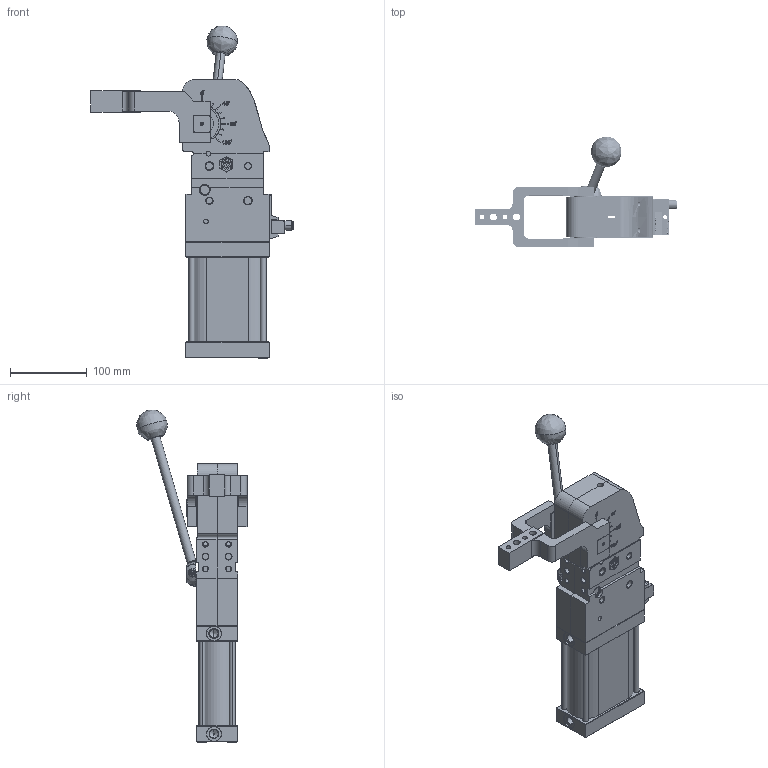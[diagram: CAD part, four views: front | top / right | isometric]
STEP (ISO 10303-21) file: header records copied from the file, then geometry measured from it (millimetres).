
FILE_DESCRIPTION (( 'STEP AP214' ), '1' );
FILE_NAME ('P32M-63-Montaj.STEP', '2021-12-23T07:24:19', ( '' ), ( '' ), 'SwSTEP 2.0', 'SolidWorks 2015', '' );
FILE_SCHEMA (( 'AUTOMOTIVE_DESIGN' ));
Length unit declared in the file: millimetre
Products named in the file (15): P32M-63-Montaj; P32M-63-01_Govde_Sag; P32M-63-18-SariSensor; P32M-63-03_Tahrik Mili; P32M-63-36_Manuel Kol; P32M-63-09_Oval Silindir Borusu; P32M-63-18_Sensor Kartusu; P32M-63-37_Ball knob DIN 319-KU-40-M12-C; P32M-63-10_Silindir alt kapak; P32-63-kol; P32M-63-35_Vidali Sikma Pensi; P32M-63-02_Govde_Sol; P32M-63-08_Silindir_ust_kapak; P32M-63-15_Sensor_kontrol_1650065_P1; P32M-63-22-M6x160
Assembly tree (17 placements, depth 2):
  P32M-63-Montaj
    P32M-63-15_Sensor_kontrol_1650065_P1
    P32M-63-01_Govde_Sag
    P32M-63-02_Govde_Sol
    P32M-63-09_Oval Silindir Borusu
    P32M-63-35_Vidali Sikma Pensi
    P32M-63-10_Silindir alt kapak
    P32M-63-08_Silindir_ust_kapak
    P32M-63-03_Tahrik Mili
    P32M-63-18_Sensor Kartusu
    P32M-63-18-SariSensor
    P32M-63-22-M6x160  x4
    P32M-63-36_Manuel Kol
    P32M-63-37_Ball knob DIN 319-KU-40-M12-C
    P32-63-kol
Bounding box: 262.7 x 144.03 x 431.53 mm (x, y, z)
Volume: 1628471.8 mm3; surface area: 417372.1 mm2
Topology: 21 solids, 25 shells, 2221 faces, 6154 edges, 4013 vertices
Faces by surface type: plane 844, cylinder 693, bspline 482, cone 202
Full cylindrical faces by diameter (mm): 5.85 x12
Entity records: 129112 total; most frequent: CARTESIAN_POINT 57520, ORIENTED_EDGE 10829, DIRECTION 9141, EDGE_CURVE 5443, VERTEX_POINT 3556, AXIS2_PLACEMENT_3D 3134, VECTOR 2873, LINE 2873
